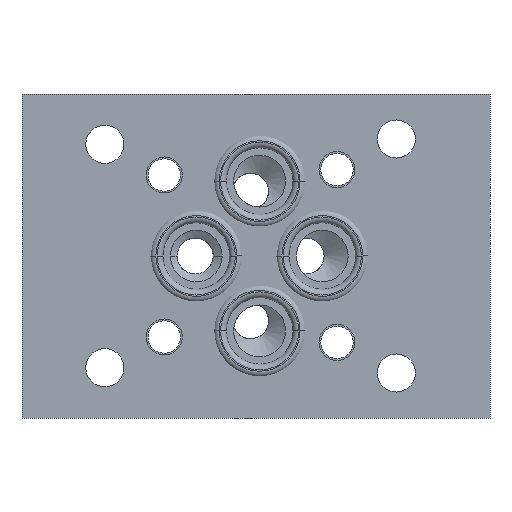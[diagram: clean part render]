
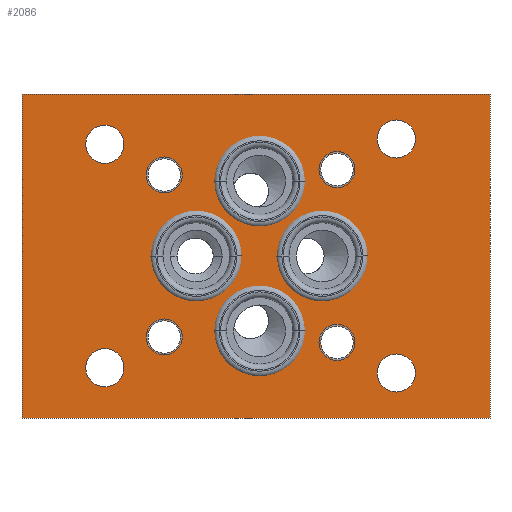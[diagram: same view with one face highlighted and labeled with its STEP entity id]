
A CAD part, front view. The second image highlights one B-rep face of the part: STEP entity #2086.
In plain terms, the highlighted planar face has unit normal (0, -1, 0).
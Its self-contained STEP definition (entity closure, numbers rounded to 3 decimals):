
#146=DIRECTION('',(1.,0.,0.));
#147=VECTOR('',#146,65.);
#148=CARTESIAN_POINT('',(0.,0.,22.5));
#149=LINE('',#148,#147);
#174=DIRECTION('',(0.,0.,-1.));
#175=VECTOR('',#174,45.);
#176=CARTESIAN_POINT('',(0.,0.,22.5));
#177=LINE('',#176,#175);
#181=CARTESIAN_POINT('',(11.5,0.,15.5));
#182=DIRECTION('',(0.,-1.,0.));
#183=DIRECTION('',(-1.,0.,0.));
#184=AXIS2_PLACEMENT_3D('',#181,#182,#183);
#189=CARTESIAN_POINT('',(11.5,0.,15.5));
#190=DIRECTION('',(0.,-1.,0.));
#191=DIRECTION('',(1.,0.,0.));
#192=AXIS2_PLACEMENT_3D('',#189,#190,#191);
#197=CARTESIAN_POINT('',(11.5,0.,-15.5));
#198=DIRECTION('',(0.,-1.,0.));
#199=DIRECTION('',(-1.,0.,0.));
#200=AXIS2_PLACEMENT_3D('',#197,#198,#199);
#205=CARTESIAN_POINT('',(11.5,0.,-15.5));
#206=DIRECTION('',(0.,-1.,0.));
#207=DIRECTION('',(1.,0.,0.));
#208=AXIS2_PLACEMENT_3D('',#205,#206,#207);
#213=CARTESIAN_POINT('',(52.,0.,16.25));
#214=DIRECTION('',(0.,-1.,0.));
#215=DIRECTION('',(-1.,0.,0.));
#216=AXIS2_PLACEMENT_3D('',#213,#214,#215);
#221=CARTESIAN_POINT('',(52.,0.,16.25));
#222=DIRECTION('',(0.,-1.,0.));
#223=DIRECTION('',(1.,0.,0.));
#224=AXIS2_PLACEMENT_3D('',#221,#222,#223);
#229=CARTESIAN_POINT('',(52.,0.,-16.25));
#230=DIRECTION('',(0.,-1.,0.));
#231=DIRECTION('',(-1.,0.,0.));
#232=AXIS2_PLACEMENT_3D('',#229,#230,#231);
#237=CARTESIAN_POINT('',(52.,0.,-16.25));
#238=DIRECTION('',(0.,-1.,0.));
#239=DIRECTION('',(1.,0.,0.));
#240=AXIS2_PLACEMENT_3D('',#237,#238,#239);
#245=CARTESIAN_POINT('',(24.2,0.,0.));
#246=DIRECTION('',(0.,1.,0.));
#247=DIRECTION('',(1.,0.,0.));
#248=AXIS2_PLACEMENT_3D('',#245,#246,#247);
#253=CARTESIAN_POINT('',(24.2,0.,0.));
#254=DIRECTION('',(0.,1.,0.));
#255=DIRECTION('',(-1.,0.,0.));
#256=AXIS2_PLACEMENT_3D('',#253,#254,#255);
#261=CARTESIAN_POINT('',(33.,0.,10.4));
#262=DIRECTION('',(0.,1.,0.));
#263=DIRECTION('',(1.,0.,0.));
#264=AXIS2_PLACEMENT_3D('',#261,#262,#263);
#269=CARTESIAN_POINT('',(33.,0.,10.4));
#270=DIRECTION('',(0.,1.,0.));
#271=DIRECTION('',(-1.,0.,0.));
#272=AXIS2_PLACEMENT_3D('',#269,#270,#271);
#277=CARTESIAN_POINT('',(33.,0.,-10.4));
#278=DIRECTION('',(0.,1.,0.));
#279=DIRECTION('',(1.,0.,0.));
#280=AXIS2_PLACEMENT_3D('',#277,#278,#279);
#285=CARTESIAN_POINT('',(33.,0.,-10.4));
#286=DIRECTION('',(0.,1.,0.));
#287=DIRECTION('',(-1.,0.,0.));
#288=AXIS2_PLACEMENT_3D('',#285,#286,#287);
#293=CARTESIAN_POINT('',(41.7,0.,0.));
#294=DIRECTION('',(0.,1.,0.));
#295=DIRECTION('',(1.,0.,0.));
#296=AXIS2_PLACEMENT_3D('',#293,#294,#295);
#301=CARTESIAN_POINT('',(41.7,0.,0.));
#302=DIRECTION('',(0.,1.,0.));
#303=DIRECTION('',(-1.,0.,0.));
#304=AXIS2_PLACEMENT_3D('',#301,#302,#303);
#309=CARTESIAN_POINT('',(19.75,0.,11.25));
#310=DIRECTION('',(0.,1.,0.));
#311=DIRECTION('',(1.,0.,0.));
#312=AXIS2_PLACEMENT_3D('',#309,#310,#311);
#317=CARTESIAN_POINT('',(19.75,0.,11.25));
#318=DIRECTION('',(0.,1.,0.));
#319=DIRECTION('',(-1.,0.,0.));
#320=AXIS2_PLACEMENT_3D('',#317,#318,#319);
#325=CARTESIAN_POINT('',(19.75,0.,-11.25));
#326=DIRECTION('',(0.,1.,0.));
#327=DIRECTION('',(1.,0.,0.));
#328=AXIS2_PLACEMENT_3D('',#325,#326,#327);
#333=CARTESIAN_POINT('',(19.75,0.,-11.25));
#334=DIRECTION('',(0.,1.,0.));
#335=DIRECTION('',(-1.,0.,0.));
#336=AXIS2_PLACEMENT_3D('',#333,#334,#335);
#341=CARTESIAN_POINT('',(43.75,0.,12.));
#342=DIRECTION('',(0.,1.,0.));
#343=DIRECTION('',(1.,0.,0.));
#344=AXIS2_PLACEMENT_3D('',#341,#342,#343);
#349=CARTESIAN_POINT('',(43.75,0.,12.));
#350=DIRECTION('',(0.,1.,0.));
#351=DIRECTION('',(-1.,0.,0.));
#352=AXIS2_PLACEMENT_3D('',#349,#350,#351);
#357=CARTESIAN_POINT('',(43.75,0.,-12.));
#358=DIRECTION('',(0.,1.,0.));
#359=DIRECTION('',(1.,0.,0.));
#360=AXIS2_PLACEMENT_3D('',#357,#358,#359);
#365=CARTESIAN_POINT('',(43.75,0.,-12.));
#366=DIRECTION('',(0.,1.,0.));
#367=DIRECTION('',(-1.,0.,0.));
#368=AXIS2_PLACEMENT_3D('',#365,#366,#367);
#373=DIRECTION('',(0.,0.,-1.));
#374=VECTOR('',#373,45.);
#375=CARTESIAN_POINT('',(65.,0.,22.5));
#376=LINE('',#375,#374);
#586=DIRECTION('',(1.,0.,0.));
#587=VECTOR('',#586,65.);
#588=CARTESIAN_POINT('',(0.,0.,-22.5));
#589=LINE('',#588,#587);
#1758=CARTESIAN_POINT('',(0.,0.,22.5));
#1759=CARTESIAN_POINT('',(65.,0.,22.5));
#1760=VERTEX_POINT('',#1758);
#1761=VERTEX_POINT('',#1759);
#1766=CARTESIAN_POINT('',(0.,0.,-22.5));
#1767=CARTESIAN_POINT('',(65.,0.,-22.5));
#1768=VERTEX_POINT('',#1766);
#1769=VERTEX_POINT('',#1767);
#1782=CARTESIAN_POINT('',(8.85,0.,15.5));
#1783=CARTESIAN_POINT('',(14.15,0.,15.5));
#1784=VERTEX_POINT('',#1782);
#1785=VERTEX_POINT('',#1783);
#1798=CARTESIAN_POINT('',(8.85,0.,-15.5));
#1799=CARTESIAN_POINT('',(14.15,0.,-15.5));
#1800=VERTEX_POINT('',#1798);
#1801=VERTEX_POINT('',#1799);
#1814=CARTESIAN_POINT('',(49.35,0.,16.25));
#1815=CARTESIAN_POINT('',(54.65,0.,16.25));
#1816=VERTEX_POINT('',#1814);
#1817=VERTEX_POINT('',#1815);
#1830=CARTESIAN_POINT('',(49.35,0.,-16.25));
#1831=CARTESIAN_POINT('',(54.65,0.,-16.25));
#1832=VERTEX_POINT('',#1830);
#1833=VERTEX_POINT('',#1831);
#1850=CARTESIAN_POINT('',(30.3,0.,0.));
#1851=CARTESIAN_POINT('',(18.1,0.,0.));
#1852=VERTEX_POINT('',#1850);
#1853=VERTEX_POINT('',#1851);
#1866=CARTESIAN_POINT('',(39.1,0.,10.4));
#1867=CARTESIAN_POINT('',(26.9,0.,10.4));
#1868=VERTEX_POINT('',#1866);
#1869=VERTEX_POINT('',#1867);
#1882=CARTESIAN_POINT('',(39.1,0.,-10.4));
#1883=CARTESIAN_POINT('',(26.9,0.,-10.4));
#1884=VERTEX_POINT('',#1882);
#1885=VERTEX_POINT('',#1883);
#1896=CARTESIAN_POINT('',(47.8,0.,0.));
#1897=CARTESIAN_POINT('',(35.6,0.,0.));
#1898=VERTEX_POINT('',#1896);
#1899=VERTEX_POINT('',#1897);
#1900=CARTESIAN_POINT('',(22.,0.,11.25));
#1901=CARTESIAN_POINT('',(17.5,0.,11.25));
#1902=VERTEX_POINT('',#1900);
#1903=VERTEX_POINT('',#1901);
#1908=CARTESIAN_POINT('',(22.,0.,-11.25));
#1909=CARTESIAN_POINT('',(17.5,0.,-11.25));
#1910=VERTEX_POINT('',#1908);
#1911=VERTEX_POINT('',#1909);
#1916=CARTESIAN_POINT('',(46.,0.,12.));
#1917=CARTESIAN_POINT('',(41.5,0.,12.));
#1918=VERTEX_POINT('',#1916);
#1919=VERTEX_POINT('',#1917);
#1924=CARTESIAN_POINT('',(46.,0.,-12.));
#1925=CARTESIAN_POINT('',(41.5,0.,-12.));
#1926=VERTEX_POINT('',#1924);
#1927=VERTEX_POINT('',#1925);
#2000=CARTESIAN_POINT('',(0.,0.,22.5));
#2001=DIRECTION('',(0.,-1.,0.));
#2002=DIRECTION('',(1.,0.,0.));
#2003=AXIS2_PLACEMENT_3D('',#2000,#2001,#2002);
#2004=PLANE('',#2003);
#2005=ORIENTED_EDGE('',*,*,#1989,.T.);
#2007=ORIENTED_EDGE('',*,*,#2006,.T.);
#2009=ORIENTED_EDGE('',*,*,#2008,.F.);
#2011=ORIENTED_EDGE('',*,*,#2010,.F.);
#2012=EDGE_LOOP('',(#2005,#2007,#2009,#2011));
#2013=FACE_OUTER_BOUND('',#2012,.F.);
#2015=ORIENTED_EDGE('',*,*,#2014,.T.);
#2017=ORIENTED_EDGE('',*,*,#2016,.T.);
#2018=EDGE_LOOP('',(#2015,#2017));
#2019=FACE_BOUND('',#2018,.F.);
#2021=ORIENTED_EDGE('',*,*,#2020,.T.);
#2023=ORIENTED_EDGE('',*,*,#2022,.T.);
#2024=EDGE_LOOP('',(#2021,#2023));
#2025=FACE_BOUND('',#2024,.F.);
#2027=ORIENTED_EDGE('',*,*,#2026,.T.);
#2029=ORIENTED_EDGE('',*,*,#2028,.T.);
#2030=EDGE_LOOP('',(#2027,#2029));
#2031=FACE_BOUND('',#2030,.F.);
#2033=ORIENTED_EDGE('',*,*,#2032,.T.);
#2035=ORIENTED_EDGE('',*,*,#2034,.T.);
#2036=EDGE_LOOP('',(#2033,#2035));
#2037=FACE_BOUND('',#2036,.F.);
#2039=ORIENTED_EDGE('',*,*,#2038,.F.);
#2041=ORIENTED_EDGE('',*,*,#2040,.F.);
#2042=EDGE_LOOP('',(#2039,#2041));
#2043=FACE_BOUND('',#2042,.F.);
#2045=ORIENTED_EDGE('',*,*,#2044,.F.);
#2047=ORIENTED_EDGE('',*,*,#2046,.F.);
#2048=EDGE_LOOP('',(#2045,#2047));
#2049=FACE_BOUND('',#2048,.F.);
#2051=ORIENTED_EDGE('',*,*,#2050,.F.);
#2053=ORIENTED_EDGE('',*,*,#2052,.F.);
#2054=EDGE_LOOP('',(#2051,#2053));
#2055=FACE_BOUND('',#2054,.F.);
#2057=ORIENTED_EDGE('',*,*,#2056,.F.);
#2059=ORIENTED_EDGE('',*,*,#2058,.F.);
#2060=EDGE_LOOP('',(#2057,#2059));
#2061=FACE_BOUND('',#2060,.F.);
#2063=ORIENTED_EDGE('',*,*,#2062,.F.);
#2065=ORIENTED_EDGE('',*,*,#2064,.F.);
#2066=EDGE_LOOP('',(#2063,#2065));
#2067=FACE_BOUND('',#2066,.F.);
#2069=ORIENTED_EDGE('',*,*,#2068,.F.);
#2071=ORIENTED_EDGE('',*,*,#2070,.F.);
#2072=EDGE_LOOP('',(#2069,#2071));
#2073=FACE_BOUND('',#2072,.F.);
#2075=ORIENTED_EDGE('',*,*,#2074,.F.);
#2077=ORIENTED_EDGE('',*,*,#2076,.F.);
#2078=EDGE_LOOP('',(#2075,#2077));
#2079=FACE_BOUND('',#2078,.F.);
#2081=ORIENTED_EDGE('',*,*,#2080,.F.);
#2083=ORIENTED_EDGE('',*,*,#2082,.F.);
#2084=EDGE_LOOP('',(#2081,#2083));
#2085=FACE_BOUND('',#2084,.F.);
#185=CIRCLE('',#184,2.65);
#193=CIRCLE('',#192,2.65);
#201=CIRCLE('',#200,2.65);
#209=CIRCLE('',#208,2.65);
#217=CIRCLE('',#216,2.65);
#225=CIRCLE('',#224,2.65);
#233=CIRCLE('',#232,2.65);
#241=CIRCLE('',#240,2.65);
#249=CIRCLE('',#248,6.1);
#257=CIRCLE('',#256,6.1);
#265=CIRCLE('',#264,6.1);
#273=CIRCLE('',#272,6.1);
#281=CIRCLE('',#280,6.1);
#289=CIRCLE('',#288,6.1);
#297=CIRCLE('',#296,6.1);
#305=CIRCLE('',#304,6.1);
#313=CIRCLE('',#312,2.25);
#321=CIRCLE('',#320,2.25);
#329=CIRCLE('',#328,2.25);
#337=CIRCLE('',#336,2.25);
#345=CIRCLE('',#344,2.25);
#353=CIRCLE('',#352,2.25);
#361=CIRCLE('',#360,2.25);
#369=CIRCLE('',#368,2.25);
#1989=EDGE_CURVE('',#1760,#1761,#149,.T.);
#2006=EDGE_CURVE('',#1761,#1769,#376,.T.);
#2008=EDGE_CURVE('',#1768,#1769,#589,.T.);
#2010=EDGE_CURVE('',#1760,#1768,#177,.T.);
#2014=EDGE_CURVE('',#1784,#1785,#185,.T.);
#2016=EDGE_CURVE('',#1785,#1784,#193,.T.);
#2020=EDGE_CURVE('',#1800,#1801,#201,.T.);
#2022=EDGE_CURVE('',#1801,#1800,#209,.T.);
#2026=EDGE_CURVE('',#1816,#1817,#217,.T.);
#2028=EDGE_CURVE('',#1817,#1816,#225,.T.);
#2032=EDGE_CURVE('',#1832,#1833,#233,.T.);
#2034=EDGE_CURVE('',#1833,#1832,#241,.T.);
#2038=EDGE_CURVE('',#1852,#1853,#249,.T.);
#2040=EDGE_CURVE('',#1853,#1852,#257,.T.);
#2044=EDGE_CURVE('',#1868,#1869,#265,.T.);
#2046=EDGE_CURVE('',#1869,#1868,#273,.T.);
#2050=EDGE_CURVE('',#1884,#1885,#281,.T.);
#2052=EDGE_CURVE('',#1885,#1884,#289,.T.);
#2056=EDGE_CURVE('',#1898,#1899,#297,.T.);
#2058=EDGE_CURVE('',#1899,#1898,#305,.T.);
#2062=EDGE_CURVE('',#1902,#1903,#313,.T.);
#2064=EDGE_CURVE('',#1903,#1902,#321,.T.);
#2068=EDGE_CURVE('',#1910,#1911,#329,.T.);
#2070=EDGE_CURVE('',#1911,#1910,#337,.T.);
#2074=EDGE_CURVE('',#1918,#1919,#345,.T.);
#2076=EDGE_CURVE('',#1919,#1918,#353,.T.);
#2080=EDGE_CURVE('',#1926,#1927,#361,.T.);
#2082=EDGE_CURVE('',#1927,#1926,#369,.T.);
#2086=ADVANCED_FACE('',(#2013,#2019,#2025,#2031,#2037,#2043,#2049,#2055,#2061,
#2067,#2073,#2079,#2085),#2004,.T.);
